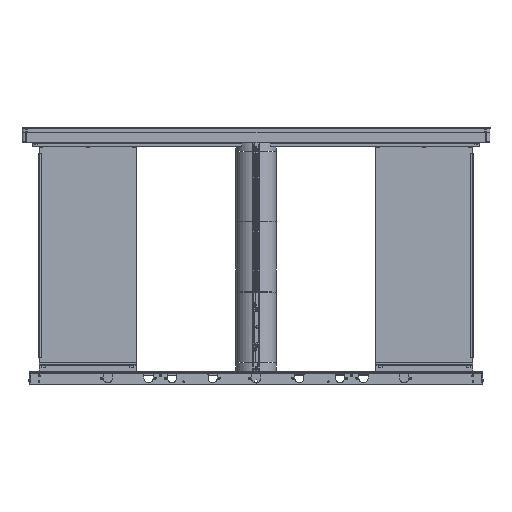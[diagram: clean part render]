
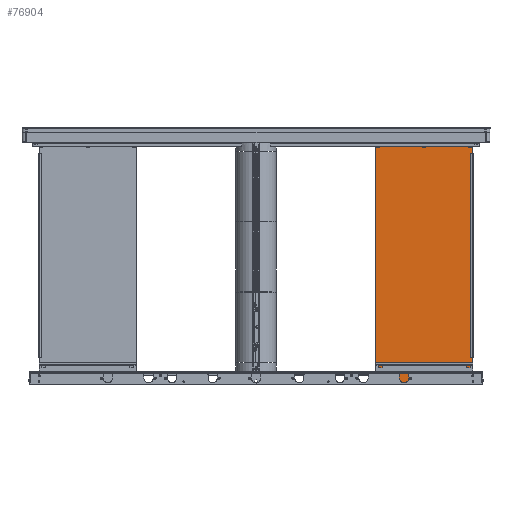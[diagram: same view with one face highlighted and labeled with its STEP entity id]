
A CAD part, top view. The second image highlights one B-rep face of the part: STEP entity #76904.
In plain terms, the highlighted planar face has unit normal (0, 0, 1) as drawn and (0, 0, -1) by its records, which use the part's own axes.
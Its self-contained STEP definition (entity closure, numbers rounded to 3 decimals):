
#320 = CARTESIAN_POINT ( 'NONE',  ( 184., -457., -6. ) ) ;
#1659 = CIRCLE ( 'NONE', #57218, 7.5 ) ;
#2138 = DIRECTION ( 'NONE',  ( 0., 0., 1. ) ) ;
#3153 = DIRECTION ( 'NONE',  ( -1., 0., 0. ) ) ;
#4829 = DIRECTION ( 'NONE',  ( 0., 0., 1. ) ) ;
#6367 = PLANE ( 'NONE',  #66113 ) ;
#6376 = ORIENTED_EDGE ( 'NONE', *, *, #69196, .T. ) ;
#7086 = ORIENTED_EDGE ( 'NONE', *, *, #69508, .T. ) ;
#7144 = FACE_BOUND ( 'NONE', #61381, .T. ) ;
#7650 = VERTEX_POINT ( 'NONE', #33911 ) ;
#8409 = EDGE_CURVE ( 'NONE', #8622, #16658, #59891, .T. ) ;
#8437 = CARTESIAN_POINT ( 'NONE',  ( -125., -427., -6. ) ) ;
#8622 = VERTEX_POINT ( 'NONE', #32529 ) ;
#10377 = CIRCLE ( 'NONE', #47050, 7.5 ) ;
#11260 = EDGE_CURVE ( 'NONE', #23792, #7650, #21168, .T. ) ;
#14990 = LINE ( 'NONE', #75516, #45861 ) ;
#15721 = EDGE_LOOP ( 'NONE', ( #7086, #75090, #61941, #52750 ) ) ;
#16658 = VERTEX_POINT ( 'NONE', #320 ) ;
#16971 = EDGE_LOOP ( 'NONE', ( #53735, #36867 ) ) ;
#17160 = EDGE_CURVE ( 'NONE', #7650, #23792, #59153, .T. ) ;
#17199 = DIRECTION ( 'NONE',  ( 0., 0., 1. ) ) ;
#17202 = VERTEX_POINT ( 'NONE', #55950 ) ;
#18038 = CIRCLE ( 'NONE', #62208, 7.5 ) ;
#21130 = CARTESIAN_POINT ( 'NONE',  ( -7.5, -427., -6. ) ) ;
#21168 = CIRCLE ( 'NONE', #43855, 7.5 ) ;
#22760 = DIRECTION ( 'NONE',  ( 1., 0., 0. ) ) ;
#23792 = VERTEX_POINT ( 'NONE', #36620 ) ;
#23901 = CARTESIAN_POINT ( 'NONE',  ( -132.5, -427., -6. ) ) ;
#25043 = AXIS2_PLACEMENT_3D ( 'NONE', #61846, #2138, #74888 ) ;
#25109 = DIRECTION ( 'NONE',  ( 0., 0., 1. ) ) ;
#25521 = DIRECTION ( 'NONE',  ( 0., 0., 1. ) ) ;
#25754 = VECTOR ( 'NONE', #3153, 1000. ) ;
#27278 = DIRECTION ( 'NONE',  ( 0., 1., 0. ) ) ;
#29376 = VECTOR ( 'NONE', #36527, 1000. ) ;
#30334 = VERTEX_POINT ( 'NONE', #23901 ) ;
#30840 = VERTEX_POINT ( 'NONE', #32731 ) ;
#31298 = FACE_OUTER_BOUND ( 'NONE', #15721, .T. ) ;
#32529 = CARTESIAN_POINT ( 'NONE',  ( 184., 457., -6. ) ) ;
#32731 = CARTESIAN_POINT ( 'NONE',  ( -117.5, -427., -6. ) ) ;
#33911 = CARTESIAN_POINT ( 'NONE',  ( 132.5, -427., -6. ) ) ;
#34392 = EDGE_CURVE ( 'NONE', #16658, #17202, #51830, .T. ) ;
#36011 = CARTESIAN_POINT ( 'NONE',  ( -184., 457., -6. ) ) ;
#36527 = DIRECTION ( 'NONE',  ( 0., -1., 0. ) ) ;
#36620 = CARTESIAN_POINT ( 'NONE',  ( 117.5, -427., -6. ) ) ;
#36867 = ORIENTED_EDGE ( 'NONE', *, *, #17160, .T. ) ;
#37344 = DIRECTION ( 'NONE',  ( 1., 0., 0. ) ) ;
#37601 = DIRECTION ( 'NONE',  ( 1., 0., 0. ) ) ;
#38501 = CARTESIAN_POINT ( 'NONE',  ( -185., 457., -6. ) ) ;
#42136 = CARTESIAN_POINT ( 'NONE',  ( 0., -427., -6. ) ) ;
#42215 = ORIENTED_EDGE ( 'NONE', *, *, #57257, .T. ) ;
#42456 = CARTESIAN_POINT ( 'NONE',  ( 184., -457.5, -6. ) ) ;
#43561 = DIRECTION ( 'NONE',  ( 0., 0., 1. ) ) ;
#43855 = AXIS2_PLACEMENT_3D ( 'NONE', #48046, #17199, #22760 ) ;
#45609 = LINE ( 'NONE', #38501, #73690 ) ;
#45861 = VECTOR ( 'NONE', #27278, 1000. ) ;
#46747 = DIRECTION ( 'NONE',  ( 1., 0., 0. ) ) ;
#47050 = AXIS2_PLACEMENT_3D ( 'NONE', #47175, #4829, #60500 ) ;
#47175 = CARTESIAN_POINT ( 'NONE',  ( -125., -427., -6. ) ) ;
#48007 = AXIS2_PLACEMENT_3D ( 'NONE', #42136, #25521, #55198 ) ;
#48046 = CARTESIAN_POINT ( 'NONE',  ( 125., -427., -6. ) ) ;
#49508 = FACE_BOUND ( 'NONE', #63476, .T. ) ;
#51674 = CARTESIAN_POINT ( 'NONE',  ( 7.5, -427., -6. ) ) ;
#51810 = CIRCLE ( 'NONE', #48007, 7.5 ) ;
#51830 = LINE ( 'NONE', #57375, #25754 ) ;
#52430 = ORIENTED_EDGE ( 'NONE', *, *, #73857, .T. ) ;
#52750 = ORIENTED_EDGE ( 'NONE', *, *, #34392, .T. ) ;
#53735 = ORIENTED_EDGE ( 'NONE', *, *, #11260, .T. ) ;
#55198 = DIRECTION ( 'NONE',  ( 1., 0., 0. ) ) ;
#55950 = CARTESIAN_POINT ( 'NONE',  ( -184., -457., -6. ) ) ;
#57218 = AXIS2_PLACEMENT_3D ( 'NONE', #8437, #25109, #37344 ) ;
#57257 = EDGE_CURVE ( 'NONE', #30840, #30334, #10377, .T. ) ;
#57375 = CARTESIAN_POINT ( 'NONE',  ( -185., -457., -6. ) ) ;
#57921 = VERTEX_POINT ( 'NONE', #51674 ) ;
#59012 = CARTESIAN_POINT ( 'NONE',  ( 0., -427., -6. ) ) ;
#59153 = CIRCLE ( 'NONE', #25043, 7.5 ) ;
#59275 = EDGE_CURVE ( 'NONE', #30334, #30840, #1659, .T. ) ;
#59862 = ORIENTED_EDGE ( 'NONE', *, *, #59275, .T. ) ;
#59891 = LINE ( 'NONE', #42456, #29376 ) ;
#60500 = DIRECTION ( 'NONE',  ( 1., 0., 0. ) ) ;
#61348 = FACE_BOUND ( 'NONE', #16971, .T. ) ;
#61381 = EDGE_LOOP ( 'NONE', ( #59862, #42215 ) ) ;
#61846 = CARTESIAN_POINT ( 'NONE',  ( 125., -427., -6. ) ) ;
#61941 = ORIENTED_EDGE ( 'NONE', *, *, #8409, .T. ) ;
#62208 = AXIS2_PLACEMENT_3D ( 'NONE', #59012, #71643, #46747 ) ;
#62626 = DIRECTION ( 'NONE',  ( 1., 0., 0. ) ) ;
#63476 = EDGE_LOOP ( 'NONE', ( #6376, #52430 ) ) ;
#66113 = AXIS2_PLACEMENT_3D ( 'NONE', #73607, #43561, #37601 ) ;
#69196 = EDGE_CURVE ( 'NONE', #72426, #57921, #18038, .T. ) ;
#69508 = EDGE_CURVE ( 'NONE', #17202, #72938, #14990, .T. ) ;
#71268 = EDGE_CURVE ( 'NONE', #72938, #8622, #45609, .T. ) ;
#71643 = DIRECTION ( 'NONE',  ( 0., 0., 1. ) ) ;
#72426 = VERTEX_POINT ( 'NONE', #21130 ) ;
#72938 = VERTEX_POINT ( 'NONE', #36011 ) ;
#73607 = CARTESIAN_POINT ( 'NONE',  ( -185., -457.5, -6. ) ) ;
#73690 = VECTOR ( 'NONE', #62626, 1000. ) ;
#73857 = EDGE_CURVE ( 'NONE', #57921, #72426, #51810, .T. ) ;
#74888 = DIRECTION ( 'NONE',  ( 1., 0., 0. ) ) ;
#75090 = ORIENTED_EDGE ( 'NONE', *, *, #71268, .T. ) ;
#75516 = CARTESIAN_POINT ( 'NONE',  ( -184., -457.5, -6. ) ) ;
#76904 = ADVANCED_FACE ( 'NONE', ( #61348, #49508, #7144, #31298 ), #6367, .F. ) ;
